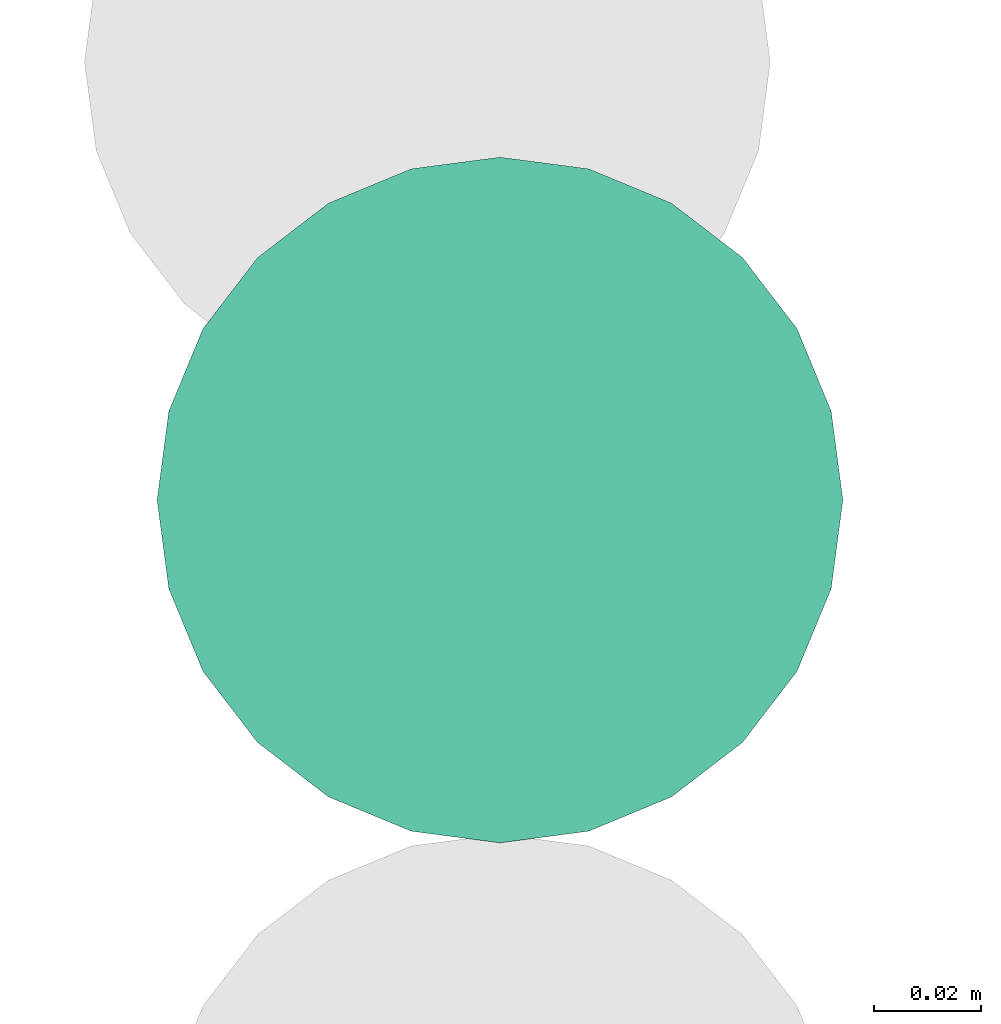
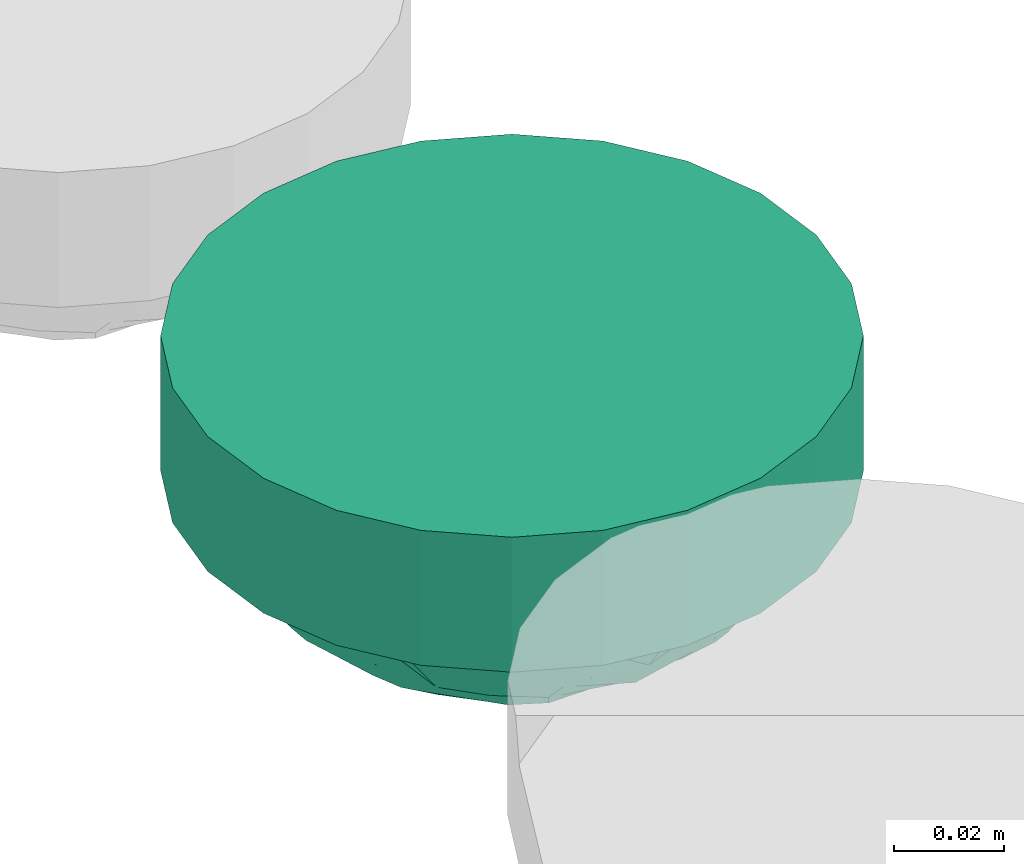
# One storey, part 105 of 153: 1 flow terminal.
"""IFC2X3 building model written with IfcOpenShell, lengths in metres."""

from ifc_helpers import new_model, entity, si_unit, converted_unit, derived_unit, direction, frame, origin, place, context, subcontext, project, spatial, faceted_brep, source, transform, mapped, type_object, type_shapes, element, save


model = new_model("IFC2X3")

# Units and contexts
model_context = context("Model", 3, precision=1e-05, world=origin(), true_north=direction((6.12303176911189e-17, 1.0)))
body_context = subcontext(model_context, "Body", "Model", "MODEL_VIEW")
ifc_project = project(units=[si_unit("LENGTHUNIT", "METRE"), si_unit("AREAUNIT", "SQUARE_METRE"), si_unit("VOLUMEUNIT", "CUBIC_METRE"), converted_unit("PLANEANGLEUNIT", "DEGREE", entity("IfcRatioMeasure", 0.0174532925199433), si_unit("PLANEANGLEUNIT", "RADIAN"), dimensions=[0, 0, 0, 0, 0, 0, 0]), si_unit("MASSUNIT", "GRAM", prefix="KILO"), derived_unit("MASSDENSITYUNIT", [(si_unit("MASSUNIT", "GRAM", prefix="KILO"), 1), (si_unit("LENGTHUNIT", "METRE"), -3)]), si_unit("TIMEUNIT", "SECOND"), si_unit("FREQUENCYUNIT", "HERTZ"), si_unit("THERMODYNAMICTEMPERATUREUNIT", "DEGREE_CELSIUS"), derived_unit("THERMALTRANSMITTANCEUNIT", [(si_unit("MASSUNIT", "GRAM", prefix="KILO"), 1), (si_unit("THERMODYNAMICTEMPERATUREUNIT", "KELVIN"), -1), (si_unit("TIMEUNIT", "SECOND"), -3)]), derived_unit("VOLUMETRICFLOWRATEUNIT", [(si_unit("LENGTHUNIT", "METRE"), 3), (si_unit("TIMEUNIT", "SECOND"), -1)]), si_unit("ELECTRICCURRENTUNIT", "AMPERE"), si_unit("ELECTRICVOLTAGEUNIT", "VOLT"), si_unit("POWERUNIT", "WATT"), si_unit("FORCEUNIT", "NEWTON"), si_unit("ILLUMINANCEUNIT", "LUX"), si_unit("LUMINOUSFLUXUNIT", "LUMEN"), si_unit("LUMINOUSINTENSITYUNIT", "CANDELA"), derived_unit("USERDEFINED", [(si_unit("MASSUNIT", "GRAM", prefix="KILO"), -1), (si_unit("LENGTHUNIT", "METRE"), -2), (si_unit("TIMEUNIT", "SECOND"), 3), (si_unit("LUMINOUSFLUXUNIT", "LUMEN"), 1)]), derived_unit("LINEARVELOCITYUNIT", [(si_unit("LENGTHUNIT", "METRE"), 1), (si_unit("TIMEUNIT", "SECOND"), -1)]), si_unit("PRESSUREUNIT", "PASCAL"), derived_unit("USERDEFINED", [(si_unit("LENGTHUNIT", "METRE"), -2), (si_unit("MASSUNIT", "GRAM", prefix="KILO"), 1), (si_unit("TIMEUNIT", "SECOND"), -2)])], contexts=[model_context])

# Site, building, storey
site_placement = place(None, origin())
site = spatial("IfcSite", under=ifc_project, at=site_placement, Name="Default", CompositionType="ELEMENT")
building_placement = place(site_placement, origin())
building = spatial("IfcBuilding", under=site, at=building_placement, CompositionType="ELEMENT")
storey_placement = place(building_placement, frame((0.0, 0.0, -4.62)))
storey = spatial("IfcBuildingStorey", under=building, at=storey_placement, Name="S02", CompositionType="ELEMENT", Elevation=-4.62)

# Flow terminal
light_fixture_type = type_object("IfcLightFixtureType", Name="Détecteur 360°", PredefinedType="NOTDEFINED")
shared_shape = source(origin(), body_context, "Body", "Brep", [
    faceted_brep([(-0.0175153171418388, 0.0435914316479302, 0.0478512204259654), (0.0, 0.034524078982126, 0.0563702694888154), (0.0, 0.0397165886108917, 0.0531256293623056), (0.0, -0.00603476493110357, 0.0659648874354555), (0.0, 0.0, 0.0669999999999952), (-0.0194029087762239, 0.000878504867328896, 0.0644483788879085), (-0.0269980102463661, 0.0195753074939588, 0.0584711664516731), (-0.0366619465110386, 0.0127227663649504, 0.0549213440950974), (-0.0174057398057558, 0.0159851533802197, 0.0630502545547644), (-0.0276843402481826, 0.0401006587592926, 0.0459804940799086), (-0.0359767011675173, 0.0348394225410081, 0.0444249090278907), (-0.0202403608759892, 0.0335607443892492, 0.054639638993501), (-0.0256912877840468, 0.0533485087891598, 0.0299999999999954), (-0.0172617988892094, 0.0486391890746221, 0.042533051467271), (-0.0133088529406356, 0.0517577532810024, 0.0400582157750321), (-0.0462941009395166, 0.0369183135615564, 0.0299999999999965), (-0.0186245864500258, 0.0267295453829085, 0.0589100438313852), (0.0, 0.0241390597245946, 0.0628595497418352), (-0.0139070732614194, 0.0374370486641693, 0.0540817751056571), (0.0, -0.0397165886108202, 0.0531256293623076), (-0.0172618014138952, -0.0486391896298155, 0.0425330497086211), (0.0, -0.0449090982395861, 0.049880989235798), (-0.0353547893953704, -0.0284533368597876, 0.0494330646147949), (-0.0202403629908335, -0.0335607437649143, 0.054639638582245), (-0.0186245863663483, -0.0267295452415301, 0.0589100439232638), (-0.0191783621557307, -0.0150189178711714, 0.0627751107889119), (-0.0249385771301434, -0.0204731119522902, 0.0590841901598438), (0.0, -0.0120695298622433, 0.0649297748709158), (-0.0453471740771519, 0.0286501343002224, 0.0397747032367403), (-0.052010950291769, 0.0250471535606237, 0.029999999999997), (-0.0465404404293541, 0.0196510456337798, 0.0438984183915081), (-0.0365036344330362, 0.0226255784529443, 0.0516441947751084), (-0.0276843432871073, -0.0401006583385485, 0.0459804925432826), (-0.0359926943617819, -0.0451334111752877, 0.0299999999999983), (-0.0175153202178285, -0.0435914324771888, 0.0478512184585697), (0.0, 0.049890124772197, 0.0429575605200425), (0.0, 0.0545512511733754, 0.0364787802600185), (0.0, 0.0592123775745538, 0.0299999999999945), (-0.00849704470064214, 0.0572729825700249, 0.0299999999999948), (-0.0169940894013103, 0.055333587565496, 0.0299999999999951), (-0.035976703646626, -0.0348394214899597, 0.0444249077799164), (-0.0308419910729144, -0.0492409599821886, 0.0299999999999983), (-0.025691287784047, -0.0533485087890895, 0.0299999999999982), (-0.0130265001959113, -0.0514867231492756, 0.040526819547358), (0.0, -0.0498901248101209, 0.0429575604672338), (-0.0169940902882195, -0.0553335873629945, 0.029999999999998), (-0.0353547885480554, 0.0284533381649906, 0.0494330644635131), (0.0, -0.0181042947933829, 0.0638946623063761), (-0.036659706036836, 0.00328672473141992, 0.0563153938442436), (-0.0485435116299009, 0.009089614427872, 0.0452357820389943), (-0.0473669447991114, 0.00128092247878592, 0.0474310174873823), (0.0, 0.00603476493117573, 0.0659648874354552), (-0.0226425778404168, 0.0107553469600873, 0.0624973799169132), (-0.0139070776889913, -0.0374370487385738, 0.0540817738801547), (0.0, -0.0293315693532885, 0.0596149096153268), (-0.0453471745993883, -0.0286501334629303, 0.0397747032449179), (-0.0449600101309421, -0.018422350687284, 0.0461366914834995), (-0.0577277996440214, -0.0131759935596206, 0.0299999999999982), (-0.0476906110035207, -0.00670602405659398, 0.0466053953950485), (0.0, 0.0449090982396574, 0.0498809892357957), (-0.0308419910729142, 0.049240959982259, 0.0299999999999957), (-0.0359926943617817, 0.0451334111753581, 0.029999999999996), (0.0, -0.0345240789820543, 0.0563702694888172), (-0.0462941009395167, -0.0369183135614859, 0.0299999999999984), (-0.0411433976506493, -0.0410258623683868, 0.0299999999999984), (-0.0491525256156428, 0.03098273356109, 0.0299999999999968), (-0.0577277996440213, 0.0131759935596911, 0.0299999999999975), (0.0, 0.018104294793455, 0.0638946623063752), (-0.0377433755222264, -0.00448382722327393, 0.0554913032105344), (-0.0577277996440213, 0.00658799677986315, 0.0299999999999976), (-0.0577277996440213, -0.00658799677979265, 0.029999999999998), (-0.0577277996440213, 0.0, 0.0299999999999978), (-0.0385149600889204, -0.012484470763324, 0.0536578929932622), (-0.0491525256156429, -0.0309827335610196, 0.0299999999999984), (-0.0548693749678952, -0.0191115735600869, 0.0299999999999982), (0.0, -0.0241390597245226, 0.0628595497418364), (-0.0146256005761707, -0.0100436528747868, 0.0649170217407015), (-0.0271766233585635, -0.00920278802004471, 0.0609170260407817), (0.0, 0.0120695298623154, 0.0649297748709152), (-0.0520109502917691, -0.0250471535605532, 0.0299999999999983), (-0.0411433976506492, 0.0410258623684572, 0.0299999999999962), (-0.0548693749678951, 0.0191115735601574, 0.0299999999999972), (0.0, 0.0293315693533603, 0.0596149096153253), (-0.0127455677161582, -0.0563032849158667, 0.0299999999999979), (-0.00849704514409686, -0.057272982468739, 0.0299999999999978), (0.0, -0.0592123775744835, 0.0299999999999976), (0.0, -0.0545512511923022, 0.0364787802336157), (-0.0213426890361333, -0.054341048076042, 0.0299999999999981), (0.0175153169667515, -0.0435914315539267, 0.0478512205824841), (0.0194029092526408, -0.000878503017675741, 0.0644483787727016), (0.0269980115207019, -0.0195753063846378, 0.0584711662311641), (0.0366619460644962, -0.012722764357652, 0.0549213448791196), (0.0174057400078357, -0.0159851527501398, 0.0630502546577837), (0.0276843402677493, -0.0401006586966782, 0.0459804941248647), (0.0359767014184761, -0.0348394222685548, 0.0444249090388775), (0.0202403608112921, -0.0335607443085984, 0.0546396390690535), (0.0256912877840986, -0.0533485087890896, 0.0299999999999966), (0.0172617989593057, -0.0486391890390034, 0.0425330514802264), (0.0133088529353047, -0.0517577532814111, 0.0400582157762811), (0.0462941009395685, -0.0369183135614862, 0.0299999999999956), (0.00849704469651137, -0.0572729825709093, 0.0299999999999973), (0.0169940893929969, -0.0553335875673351, 0.029999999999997), (0.0308419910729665, 0.0492409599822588, 0.0299999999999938), (0.025691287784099, 0.0533485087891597, 0.0299999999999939), (0.0172617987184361, 0.0486391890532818, 0.0425330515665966), (0.0175153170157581, 0.0435914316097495, 0.0478512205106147), (0.0353547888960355, 0.0284533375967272, 0.0494330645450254), (0.0202403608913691, 0.03356074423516, 0.0546396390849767), (0.0186245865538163, 0.0267295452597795, 0.0589100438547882), (0.0191783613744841, 0.0150189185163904, 0.0627751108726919), (0.0249385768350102, 0.0204731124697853, 0.0590841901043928), (0.0520109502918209, -0.0250471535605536, 0.0299999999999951), (0.0548693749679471, -0.0191115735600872, 0.0299999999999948), (0.0577277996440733, -0.0131759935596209, 0.0299999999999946), (0.0465404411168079, -0.0196510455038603, 0.0438984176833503), (0.018624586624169, -0.0267295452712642, 0.0589100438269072), (0.0365036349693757, -0.0226255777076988, 0.0516441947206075), (0.0276843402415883, 0.0401006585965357, 0.0459804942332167), (0.0359926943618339, 0.0451334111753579, 0.0299999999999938), (0.0139070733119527, -0.0374370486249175, 0.0540817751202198), (0.0359767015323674, 0.0348394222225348, 0.044424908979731), (0.0226425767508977, -0.0107553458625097, 0.0624973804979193), (0.0130264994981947, 0.0514867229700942, 0.0405268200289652), (0.0169940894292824, 0.0553335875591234, 0.0299999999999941), (0.0353547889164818, -0.0284533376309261, 0.0494330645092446), (0.0453471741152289, -0.0286501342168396, 0.039774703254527), (0.0366597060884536, -0.00328672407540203, 0.0563153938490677), (0.0485435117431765, -0.00908961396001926, 0.0452357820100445), (0.0473669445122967, -0.00128092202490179, 0.0474310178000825), (0.0139070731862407, 0.0374370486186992, 0.0540817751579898), (0.0453471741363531, 0.0286501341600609, 0.039774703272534), (0.0449600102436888, 0.018422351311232, 0.0461366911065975), (0.0577277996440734, 0.0131759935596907, 0.0299999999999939), (0.0476906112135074, 0.00670602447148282, 0.0466053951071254), (0.0308419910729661, -0.0492409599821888, 0.0299999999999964), (0.0359926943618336, -0.0451334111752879, 0.0299999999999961), (0.0462941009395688, 0.0369183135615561, 0.0299999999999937), (0.0411433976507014, 0.041025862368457, 0.0299999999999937), (0.0491525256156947, -0.0309827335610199, 0.0299999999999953), (0.0377433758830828, 0.00448382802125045, 0.0554913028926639), (0.0577277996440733, -0.00658799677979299, 0.0299999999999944), (0.0577277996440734, 0.00658799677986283, 0.0299999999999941), (0.0577277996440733, 0.0, 0.0299999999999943), (0.0385149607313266, 0.0124844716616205, 0.0536578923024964), (0.049152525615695, 0.0309827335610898, 0.0299999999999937), (0.0548693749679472, 0.0191115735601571, 0.0299999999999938), (0.0146256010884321, 0.0100436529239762, 0.0649170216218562), (0.0271766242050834, 0.00920278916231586, 0.0609170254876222), (0.0520109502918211, 0.0250471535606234, 0.0299999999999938), (0.041143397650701, -0.0410258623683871, 0.0299999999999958), (0.0127455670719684, 0.056303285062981, 0.0299999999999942), (0.0084970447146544, 0.0572729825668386, 0.0299999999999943), (0.0213426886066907, 0.0543410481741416, 0.029999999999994), (0.0, 0.0, 0.0299999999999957)], [[[0, 1, 2]], [[3, 4, 5]], [[6, 7, 8]], [[9, 10, 11]], [[12, 13, 14]], [[9, 15, 10]], [[16, 17, 11]], [[9, 11, 18]], [[19, 20, 21]], [[22, 23, 24]], [[25, 26, 27]], [[28, 29, 30]], [[16, 31, 6]], [[32, 33, 34]], [[35, 36, 37, 38, 39]], [[22, 40, 23]], [[41, 42, 20]], [[20, 43, 21]], [[44, 43, 45]], [[19, 34, 20]], [[46, 10, 28]], [[47, 26, 24]], [[48, 49, 50]], [[51, 52, 5]], [[23, 53, 54]], [[55, 22, 56]], [[57, 56, 58]], [[2, 59, 13]], [[0, 2, 13]], [[13, 60, 0]], [[1, 0, 18]], [[61, 9, 0]], [[19, 62, 34]], [[33, 41, 34]], [[63, 64, 33, 32]], [[34, 41, 20]], [[32, 34, 53]], [[31, 28, 30]], [[15, 65, 10]], [[30, 66, 49]], [[67, 16, 6]], [[52, 8, 7]], [[7, 31, 30]], [[68, 50, 58]], [[48, 50, 68]], [[49, 69, 50]], [[70, 57, 58, 71]], [[52, 48, 5]], [[22, 26, 56]], [[68, 58, 72]], [[72, 56, 26]], [[73, 40, 55]], [[56, 74, 55]], [[24, 75, 47]], [[5, 4, 51]], [[49, 48, 7]], [[5, 76, 3]], [[77, 5, 68]], [[51, 78, 52]], [[47, 27, 26]], [[25, 27, 76]], [[75, 24, 23]], [[22, 24, 26]], [[53, 62, 54]], [[40, 32, 23]], [[32, 40, 63]], [[73, 63, 40]], [[79, 73, 55, 74]], [[26, 25, 72]], [[22, 55, 40]], [[54, 75, 23]], [[17, 16, 67]], [[67, 8, 78]], [[11, 10, 46]], [[16, 11, 46]], [[52, 7, 48]], [[65, 29, 28]], [[9, 61, 80, 15]], [[81, 66, 30, 29]], [[65, 28, 10]], [[31, 46, 28]], [[1, 18, 82]], [[11, 17, 82]], [[49, 7, 30]], [[35, 39, 14]], [[14, 13, 59]], [[83, 84, 85, 86, 44, 45]], [[20, 42, 43]], [[43, 42, 87, 45]], [[62, 53, 34]], [[32, 53, 23]], [[82, 18, 11]], [[9, 18, 0]], [[12, 14, 39]], [[14, 59, 35]], [[61, 0, 60]], [[13, 12, 60]], [[46, 31, 16]], [[6, 31, 7]], [[69, 71, 50]], [[49, 66, 69]], [[58, 50, 71]], [[48, 68, 5]], [[77, 68, 72]], [[25, 77, 72]], [[72, 58, 56]], [[56, 57, 74]], [[77, 25, 76]], [[77, 76, 5]], [[3, 76, 27]], [[6, 8, 67]], [[8, 52, 78]], [[21, 43, 44]], [[88, 62, 19]], [[51, 4, 89]], [[90, 91, 92]], [[93, 94, 95]], [[96, 97, 98]], [[93, 99, 94]], [[44, 86, 85, 100, 101]], [[102, 103, 104]], [[2, 105, 104]], [[106, 107, 108]], [[109, 110, 78]], [[111, 112, 113, 114]], [[115, 116, 90]], [[117, 118, 105]], [[93, 95, 119]], [[106, 120, 107]], [[3, 121, 89]], [[35, 122, 123]], [[104, 122, 59]], [[115, 75, 95]], [[124, 94, 125]], [[67, 110, 108]], [[126, 127, 128]], [[2, 104, 59]], [[107, 129, 82]], [[130, 106, 131]], [[132, 131, 133]], [[19, 21, 97]], [[88, 19, 97]], [[97, 134, 88]], [[62, 88, 119]], [[135, 93, 88]], [[2, 1, 105]], [[118, 102, 105]], [[136, 137, 118, 117]], [[105, 102, 104]], [[117, 105, 129]], [[116, 125, 114]], [[99, 138, 94]], [[114, 113, 127]], [[47, 115, 90]], [[27, 92, 121]], [[91, 116, 114]], [[139, 128, 133]], [[126, 128, 139]], [[127, 140, 128]], [[141, 132, 133, 142]], [[121, 126, 89]], [[106, 110, 131]], [[139, 133, 143]], [[143, 131, 110]], [[144, 120, 130]], [[131, 145, 130]], [[108, 17, 67]], [[89, 4, 3]], [[127, 126, 91]], [[89, 146, 51]], [[147, 89, 139]], [[3, 27, 121]], [[67, 78, 110]], [[109, 78, 146]], [[17, 108, 107]], [[106, 108, 110]], [[129, 1, 82]], [[120, 117, 107]], [[117, 120, 136]], [[144, 136, 120]], [[148, 144, 130, 145]], [[110, 109, 143]], [[106, 130, 120]], [[82, 17, 107]], [[75, 115, 47]], [[47, 92, 27]], [[95, 94, 124]], [[115, 95, 124]], [[121, 91, 126]], [[138, 111, 125]], [[93, 135, 149, 99]], [[125, 111, 114]], [[138, 125, 94]], [[116, 124, 125]], [[62, 119, 54]], [[95, 75, 54]], [[127, 91, 114]], [[44, 101, 98]], [[98, 97, 21]], [[150, 151, 37, 36, 35, 123]], [[104, 103, 122]], [[122, 103, 152, 123]], [[1, 129, 105]], [[117, 129, 107]], [[54, 119, 95]], [[93, 119, 88]], [[96, 98, 101]], [[98, 21, 44]], [[135, 88, 134]], [[97, 96, 134]], [[124, 116, 115]], [[90, 116, 91]], [[140, 142, 128]], [[127, 113, 140]], [[133, 128, 142]], [[126, 139, 89]], [[147, 139, 143]], [[109, 147, 143]], [[143, 133, 131]], [[131, 132, 145]], [[147, 109, 146]], [[147, 146, 89]], [[51, 146, 78]], [[121, 92, 91]], [[90, 92, 47]], [[59, 122, 35]], [[153, 42, 41]], [[153, 41, 33]], [[153, 33, 64]], [[153, 64, 63]], [[153, 63, 73]], [[153, 73, 79]], [[153, 79, 74]], [[153, 74, 57]], [[153, 57, 70]], [[153, 87, 42]], [[153, 45, 87]], [[153, 83, 45]], [[153, 84, 83]], [[153, 85, 84]], [[153, 70, 71]], [[153, 71, 69]], [[153, 69, 66]], [[153, 66, 81]], [[153, 81, 29]], [[153, 29, 65]], [[153, 65, 15]], [[153, 15, 80]], [[153, 80, 61]], [[153, 61, 60]], [[153, 60, 12]], [[153, 12, 39]], [[153, 39, 38]], [[153, 38, 37]], [[153, 37, 151]], [[153, 100, 85]], [[153, 101, 100]], [[153, 96, 101]], [[153, 134, 96]], [[153, 135, 134]], [[153, 149, 135]], [[153, 99, 149]], [[153, 138, 99]], [[153, 111, 138]], [[153, 112, 111]], [[153, 113, 112]], [[153, 151, 150]], [[153, 150, 123]], [[153, 123, 152]], [[153, 152, 103]], [[153, 103, 102]], [[153, 102, 118]], [[153, 118, 137]], [[153, 137, 136]], [[153, 136, 144]], [[153, 144, 148]], [[153, 148, 145]], [[153, 145, 132]], [[153, 132, 141]], [[153, 141, 142]], [[153, 142, 140]], [[153, 140, 113]]]),
    faceted_brep([(0.0452548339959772, 0.0452548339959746, 0.0299999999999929), (0.0320000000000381, 0.0554256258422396, 0.0299999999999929), (0.0165644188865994, 0.0618192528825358, 0.029999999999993), (0.0, 0.0640000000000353, 0.0299999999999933), (-0.0165644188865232, 0.0618192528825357, 0.0299999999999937), (-0.0319999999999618, 0.0554256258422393, 0.0299999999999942), (-0.0452548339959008, 0.0452548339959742, 0.0299999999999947), (-0.0554256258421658, 0.0320000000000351, 0.0299999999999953), (-0.061819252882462, 0.0165644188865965, 0.0299999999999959), (-0.0639999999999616, 0.0, 0.0299999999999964), (-0.0618192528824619, -0.0165644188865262, 0.0299999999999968), (-0.0554256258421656, -0.0319999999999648, 0.0299999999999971), (-0.0452548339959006, -0.0452548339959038, 0.0299999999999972), (-0.0319999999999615, -0.0554256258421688, 0.0299999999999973), (-0.0165644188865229, -0.061819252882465, 0.0299999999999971), (0.0, -0.0639999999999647, 0.0299999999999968), (0.0165644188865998, -0.061819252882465, 0.0299999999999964), (0.0320000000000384, -0.0554256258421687, 0.0299999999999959), (0.0452548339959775, -0.0452548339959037, 0.0299999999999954), (0.0554256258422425, -0.0319999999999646, 0.0299999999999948), (0.0618192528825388, -0.016564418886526, 0.0299999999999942), (0.0640000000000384, 0.0, 0.0299999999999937), (0.0618192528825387, 0.016564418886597, 0.0299999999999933), (0.0554256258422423, 0.0320000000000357, 0.029999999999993), (0.0, -0.0639999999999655, 0.0), (-0.0165644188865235, -0.0618192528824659, 0.0), (-0.0319999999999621, -0.0554256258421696, 0.0), (-0.0452548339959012, -0.0452548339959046, 0.0), (-0.0554256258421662, -0.0319999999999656, 0.0), (-0.0618192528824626, -0.016564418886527, 0.0), (-0.0639999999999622, 0.0, 0.0), (-0.0618192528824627, 0.0165644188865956, 0.0), (-0.0554256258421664, 0.0320000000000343, 0.0), (-0.0452548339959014, 0.0452548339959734, 0.0), (-0.0319999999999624, 0.0554256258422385, 0.0), (-0.0165644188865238, 0.0618192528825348, 0.0), (0.0, 0.0640000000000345, 0.0), (0.0165644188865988, 0.061819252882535, 0.0), (0.0320000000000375, 0.0554256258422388, 0.0), (0.0452548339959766, 0.0452548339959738, 0.0), (0.0554256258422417, 0.0320000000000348, 0.0), (0.061819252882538, 0.0165644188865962, 0.0), (0.0640000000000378, 0.0, 0.0), (0.0618192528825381, -0.0165644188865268, 0.0), (0.0554256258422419, -0.0319999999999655, 0.0), (0.0452548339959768, -0.0452548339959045, 0.0), (0.0320000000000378, -0.0554256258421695, 0.0), (0.0165644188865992, -0.0618192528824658, 0.0)], [[[0, 1, 2, 3, 4, 5, 6, 7, 8, 9, 10, 11, 12, 13, 14, 15, 16, 17, 18, 19, 20, 21, 22, 23]], [[24, 25, 26, 27, 28, 29, 30, 31, 32, 33, 34, 35, 36, 37, 38, 39, 40, 41, 42, 43, 44, 45, 46, 47]], [[30, 9, 8, 31]], [[31, 8, 7, 32]], [[34, 33, 6, 5]], [[6, 33, 32, 7]], [[35, 34, 5, 4]], [[35, 4, 3, 36]], [[36, 3, 2, 37]], [[37, 2, 1, 38]], [[40, 39, 0, 23]], [[0, 39, 38, 1]], [[41, 40, 23, 22]], [[41, 22, 21, 42]], [[42, 21, 20, 43]], [[43, 20, 19, 44]], [[46, 45, 18, 17]], [[18, 45, 44, 19]], [[47, 46, 17, 16]], [[47, 16, 15, 24]], [[24, 15, 14, 25]], [[25, 14, 13, 26]], [[10, 9, 30, 29]], [[26, 13, 12, 27]], [[12, 11, 28, 27]], [[11, 10, 29, 28]]]),
])
type_shapes(light_fixture_type, [shared_shape])
flow_terminal_placement = place(storey_placement, frame((45.5032996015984, -183.893868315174, 4.62), z_axis=(0.0, 0.0, -1.0), x_axis=(1.0, 0.0, 0.0)))
element("IfcFlowTerminal", 1, at=flow_terminal_placement, inside=storey, type_object=light_fixture_type, Name="INT - Détecteur 360°:Détecteur 360°", ObjectType="INT - Détecteur 360°:Détecteur 360°", context=body_context, shape_type="MappedRepresentation", body=[
    mapped(shared_shape, transform((0.0, 0.0, 0.0), scale=1.0)),
])

save(model, "model.ifc")
